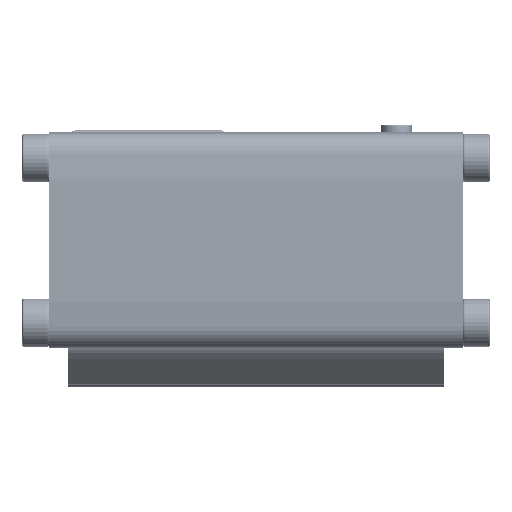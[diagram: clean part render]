
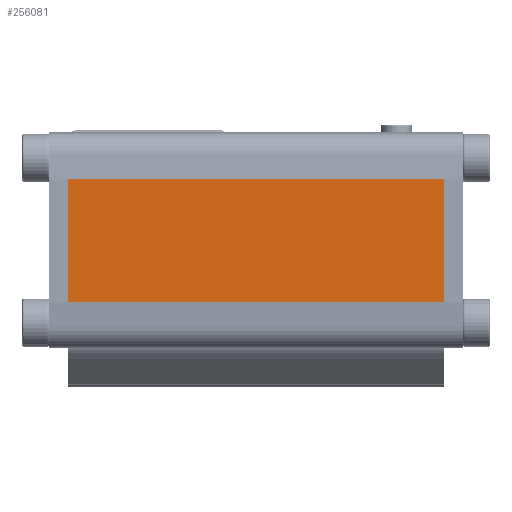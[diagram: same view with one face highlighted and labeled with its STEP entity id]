
A CAD part, front view. The second image highlights one B-rep face of the part: STEP entity #256081.
In plain terms, the highlighted planar face has unit normal (0, -1, 0) as drawn and (-1, 0, 0) by its records, which use the part's own axes.
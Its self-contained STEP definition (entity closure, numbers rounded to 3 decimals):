
#22603 = CARTESIAN_POINT ( 'NONE',  ( -56.25, -6.55, 20.1 ) ) ;
#27646 = VECTOR ( 'NONE', #336883, 1000. ) ;
#30270 = ORIENTED_EDGE ( 'NONE', *, *, #357654, .F. ) ;
#32769 = CARTESIAN_POINT ( 'NONE',  ( -56.25, -6.55, 20.1 ) ) ;
#45537 = LINE ( 'NONE', #166021, #27646 ) ;
#50392 = EDGE_CURVE ( 'NONE', #191060, #142020, #79748, .T. ) ;
#51833 = EDGE_CURVE ( 'NONE', #212957, #142020, #375822, .T. ) ;
#62712 = VECTOR ( 'NONE', #86588, 1000. ) ;
#79748 = LINE ( 'NONE', #22603, #305929 ) ;
#84846 = PLANE ( 'NONE',  #328862 ) ;
#86588 = DIRECTION ( 'NONE',  ( 0., -1., 0. ) ) ;
#125215 = VECTOR ( 'NONE', #370556, 1000. ) ;
#142020 = VERTEX_POINT ( 'NONE', #306912 ) ;
#166021 = CARTESIAN_POINT ( 'NONE',  ( -56.25, 6.55, 20.1 ) ) ;
#167974 = CARTESIAN_POINT ( 'NONE',  ( -56.25, 6.55, 20.1 ) ) ;
#191060 = VERTEX_POINT ( 'NONE', #32769 ) ;
#203767 = DIRECTION ( 'NONE',  ( 0., 0., -1. ) ) ;
#212957 = VERTEX_POINT ( 'NONE', #398102 ) ;
#256081 = ADVANCED_FACE ( 'NONE', ( #276990 ), #84846, .F. ) ;
#276990 = FACE_OUTER_BOUND ( 'NONE', #374781, .T. ) ;
#278107 = DIRECTION ( 'NONE',  ( 0., 0., -1. ) ) ;
#282859 = CARTESIAN_POINT ( 'NONE',  ( -56.25, 6.55, -20.1 ) ) ;
#300621 = ORIENTED_EDGE ( 'NONE', *, *, #50392, .F. ) ;
#305929 = VECTOR ( 'NONE', #278107, 1000. ) ;
#306912 = CARTESIAN_POINT ( 'NONE',  ( -56.25, -6.55, -20.1 ) ) ;
#307167 = LINE ( 'NONE', #368464, #125215 ) ;
#328862 = AXIS2_PLACEMENT_3D ( 'NONE', #167974, #362182, #203767 ) ;
#336883 = DIRECTION ( 'NONE',  ( 0., -1., 0. ) ) ;
#339108 = EDGE_CURVE ( 'NONE', #361936, #212957, #307167, .T. ) ;
#357654 = EDGE_CURVE ( 'NONE', #361936, #191060, #45537, .T. ) ;
#361936 = VERTEX_POINT ( 'NONE', #394919 ) ;
#362182 = DIRECTION ( 'NONE',  ( 1., 0., 0. ) ) ;
#368464 = CARTESIAN_POINT ( 'NONE',  ( -56.25, 6.55, 20.1 ) ) ;
#370556 = DIRECTION ( 'NONE',  ( 0., 0., -1. ) ) ;
#374781 = EDGE_LOOP ( 'NONE', ( #414968, #300621, #30270, #380722 ) ) ;
#375822 = LINE ( 'NONE', #282859, #62712 ) ;
#380722 = ORIENTED_EDGE ( 'NONE', *, *, #339108, .T. ) ;
#394919 = CARTESIAN_POINT ( 'NONE',  ( -56.25, 6.55, 20.1 ) ) ;
#398102 = CARTESIAN_POINT ( 'NONE',  ( -56.25, 6.55, -20.1 ) ) ;
#414968 = ORIENTED_EDGE ( 'NONE', *, *, #51833, .T. ) ;
